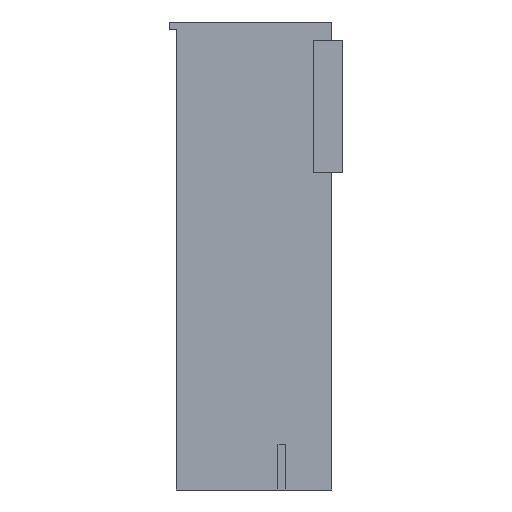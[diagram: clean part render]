
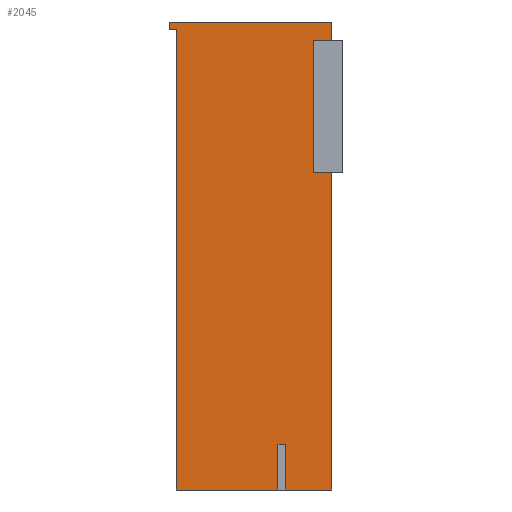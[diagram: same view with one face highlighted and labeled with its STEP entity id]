
A CAD part, left-side view. The second image highlights one B-rep face of the part: STEP entity #2045.
In plain terms, the highlighted planar face has unit normal (-1, 0, 0).
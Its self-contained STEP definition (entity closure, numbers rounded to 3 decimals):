
#158=FACE_OUTER_BOUND('',#283,.T.);
#283=EDGE_LOOP('',(#1461,#1462,#1463,#1464,#1465,#1466,#1467,#1468,#1469,
#1470,#1471,#1472,#1473,#1474));
#445=LINE('',#2969,#682);
#447=LINE('',#2975,#684);
#460=LINE('',#3010,#697);
#464=LINE('',#3018,#701);
#467=LINE('',#3024,#704);
#471=LINE('',#3031,#708);
#472=LINE('',#3033,#709);
#473=LINE('',#3035,#710);
#474=LINE('',#3036,#711);
#475=LINE('',#3038,#712);
#476=LINE('',#3040,#713);
#477=LINE('',#3042,#714);
#478=LINE('',#3044,#715);
#479=LINE('',#3045,#716);
#682=VECTOR('',#2381,10.);
#684=VECTOR('',#2385,10.);
#697=VECTOR('',#2412,10.);
#701=VECTOR('',#2418,10.);
#704=VECTOR('',#2423,10.);
#708=VECTOR('',#2431,10.);
#709=VECTOR('',#2432,10.);
#710=VECTOR('',#2433,10.);
#711=VECTOR('',#2434,10.);
#712=VECTOR('',#2435,10.);
#713=VECTOR('',#2436,10.);
#714=VECTOR('',#2437,10.);
#715=VECTOR('',#2438,10.);
#716=VECTOR('',#2439,10.);
#916=VERTEX_POINT('',#2954);
#923=VERTEX_POINT('',#2967);
#925=VERTEX_POINT('',#2972);
#926=VERTEX_POINT('',#2974);
#940=VERTEX_POINT('',#3008);
#941=VERTEX_POINT('',#3009);
#944=VERTEX_POINT('',#3017);
#946=VERTEX_POINT('',#3023);
#948=VERTEX_POINT('',#3032);
#949=VERTEX_POINT('',#3034);
#950=VERTEX_POINT('',#3037);
#951=VERTEX_POINT('',#3039);
#952=VERTEX_POINT('',#3041);
#953=VERTEX_POINT('',#3043);
#1121=EDGE_CURVE('',#923,#916,#445,.T.);
#1123=EDGE_CURVE('',#926,#925,#447,.T.);
#1140=EDGE_CURVE('',#940,#941,#460,.T.);
#1144=EDGE_CURVE('',#941,#944,#464,.T.);
#1147=EDGE_CURVE('',#944,#946,#467,.T.);
#1151=EDGE_CURVE('',#926,#946,#471,.T.);
#1152=EDGE_CURVE('',#925,#948,#472,.T.);
#1153=EDGE_CURVE('',#949,#948,#473,.T.);
#1154=EDGE_CURVE('',#916,#949,#474,.T.);
#1155=EDGE_CURVE('',#923,#950,#475,.T.);
#1156=EDGE_CURVE('',#951,#950,#476,.T.);
#1157=EDGE_CURVE('',#952,#951,#477,.T.);
#1158=EDGE_CURVE('',#953,#952,#478,.T.);
#1159=EDGE_CURVE('',#940,#953,#479,.T.);
#1461=ORIENTED_EDGE('',*,*,#1140,.T.);
#1462=ORIENTED_EDGE('',*,*,#1144,.T.);
#1463=ORIENTED_EDGE('',*,*,#1147,.T.);
#1464=ORIENTED_EDGE('',*,*,#1151,.F.);
#1465=ORIENTED_EDGE('',*,*,#1123,.T.);
#1466=ORIENTED_EDGE('',*,*,#1152,.T.);
#1467=ORIENTED_EDGE('',*,*,#1153,.F.);
#1468=ORIENTED_EDGE('',*,*,#1154,.F.);
#1469=ORIENTED_EDGE('',*,*,#1121,.F.);
#1470=ORIENTED_EDGE('',*,*,#1155,.T.);
#1471=ORIENTED_EDGE('',*,*,#1156,.F.);
#1472=ORIENTED_EDGE('',*,*,#1157,.F.);
#1473=ORIENTED_EDGE('',*,*,#1158,.F.);
#1474=ORIENTED_EDGE('',*,*,#1159,.F.);
#1962=PLANE('',#2179);
#2045=ADVANCED_FACE('',(#158),#1962,.T.);
#2179=AXIS2_PLACEMENT_3D('',#3030,#2429,#2430);
#2381=DIRECTION('',(0.,0.,-1.));
#2385=DIRECTION('',(0.,0.,1.));
#2412=DIRECTION('',(0.,0.,1.));
#2418=DIRECTION('',(0.,-1.,0.));
#2423=DIRECTION('',(0.,0.,-1.));
#2429=DIRECTION('center_axis',(-1.,0.,0.));
#2430=DIRECTION('ref_axis',(0.,0.,1.));
#2431=DIRECTION('',(0.,1.,0.));
#2432=DIRECTION('',(0.,1.,0.));
#2433=DIRECTION('',(0.,0.,-1.));
#2434=DIRECTION('',(0.,1.,0.));
#2435=DIRECTION('',(0.,1.,0.));
#2436=DIRECTION('',(0.,0.,1.));
#2437=DIRECTION('',(0.,1.,0.));
#2438=DIRECTION('',(0.,0.,1.));
#2439=DIRECTION('',(0.,1.,0.));
#2954=CARTESIAN_POINT('',(14.425,0.,0.));
#2967=CARTESIAN_POINT('',(14.425,0.,8.05));
#2969=CARTESIAN_POINT('',(14.425,0.,4.875));
#2972=CARTESIAN_POINT('',(14.425,0.,-58.));
#2974=CARTESIAN_POINT('',(14.425,0.,-197.));
#2975=CARTESIAN_POINT('',(14.425,0.,-197.));
#3008=CARTESIAN_POINT('',(14.425,23.5,-197.));
#3009=CARTESIAN_POINT('',(14.425,23.5,-177.));
#3010=CARTESIAN_POINT('',(14.425,23.5,-88.5));
#3017=CARTESIAN_POINT('',(14.425,20.,-177.));
#3018=CARTESIAN_POINT('',(14.425,10.,-177.));
#3023=CARTESIAN_POINT('',(14.425,20.,-197.));
#3024=CARTESIAN_POINT('',(14.425,20.,-98.5));
#3030=CARTESIAN_POINT('Origin',(14.425,0.,0.));
#3031=CARTESIAN_POINT('',(14.425,0.,-197.));
#3032=CARTESIAN_POINT('',(14.425,8.,-58.));
#3033=CARTESIAN_POINT('',(14.425,0.,-58.));
#3034=CARTESIAN_POINT('',(14.425,8.,0.));
#3035=CARTESIAN_POINT('',(14.425,8.,-145.738));
#3036=CARTESIAN_POINT('',(14.425,0.,0.));
#3037=CARTESIAN_POINT('',(14.425,71.175,8.05));
#3038=CARTESIAN_POINT('',(14.425,0.,8.05));
#3039=CARTESIAN_POINT('',(14.425,71.175,4.875));
#3040=CARTESIAN_POINT('',(14.425,71.175,4.875));
#3041=CARTESIAN_POINT('',(14.425,68.,4.875));
#3042=CARTESIAN_POINT('',(14.425,8.,4.875));
#3043=CARTESIAN_POINT('',(14.425,68.,-197.));
#3044=CARTESIAN_POINT('',(14.425,68.,-190.));
#3045=CARTESIAN_POINT('',(14.425,0.,-197.));
